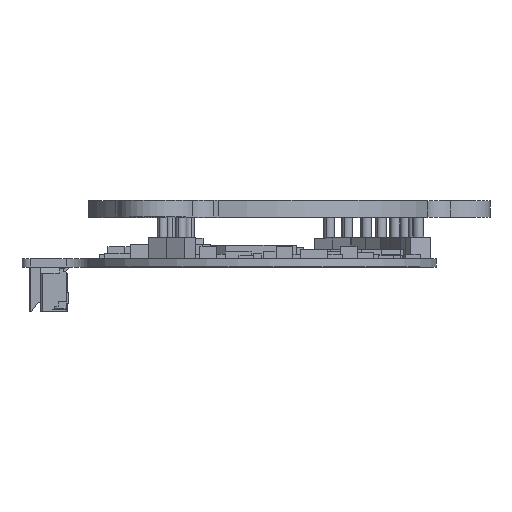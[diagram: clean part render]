
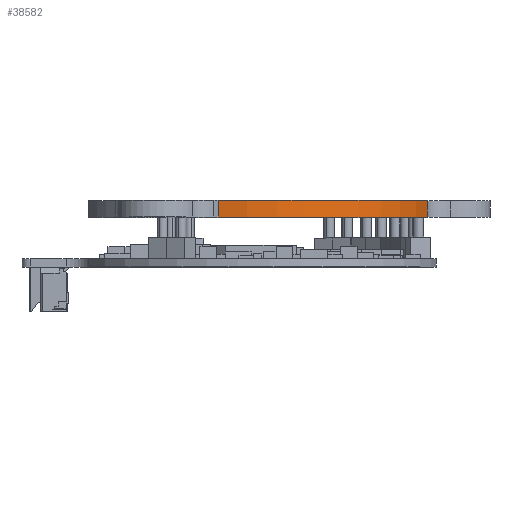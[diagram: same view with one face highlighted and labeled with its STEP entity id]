
A CAD part, top view. The second image highlights one B-rep face of the part: STEP entity #38582.
In plain terms, the highlighted cylindrical face has radius 22 mm (diameter 44 mm), a partial arc.
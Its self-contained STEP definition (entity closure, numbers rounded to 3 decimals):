
#642 = CARTESIAN_POINT ( 'NONE',  ( -4.329, 0., 21.57 ) ) ;
#877 = VERTEX_POINT ( 'NONE', #25512 ) ;
#1072 = DIRECTION ( 'NONE',  ( 0., 1., 0. ) ) ;
#1262 = CARTESIAN_POINT ( 'NONE',  ( 0., 0., 0. ) ) ;
#4927 = EDGE_CURVE ( 'NONE', #36225, #877, #42853, .T. ) ;
#7832 = LINE ( 'NONE', #12717, #10860 ) ;
#8063 = CARTESIAN_POINT ( 'NONE',  ( 20.845, 2., 7.035 ) ) ;
#8414 = VERTEX_POINT ( 'NONE', #19428 ) ;
#8484 = ORIENTED_EDGE ( 'NONE', *, *, #38383, .F. ) ;
#10393 = AXIS2_PLACEMENT_3D ( 'NONE', #21680, #35395, #38756 ) ;
#10860 = VECTOR ( 'NONE', #36062, 1000. ) ;
#12148 = CARTESIAN_POINT ( 'NONE',  ( 20.845, 2., 7.035 ) ) ;
#12717 = CARTESIAN_POINT ( 'NONE',  ( -4.329, 2., 21.57 ) ) ;
#14906 = AXIS2_PLACEMENT_3D ( 'NONE', #1262, #18493, #22288 ) ;
#16492 = AXIS2_PLACEMENT_3D ( 'NONE', #35577, #1072, #25439 ) ;
#17741 = ORIENTED_EDGE ( 'NONE', *, *, #42158, .T. ) ;
#17879 = CYLINDRICAL_SURFACE ( 'NONE', #10393, 22. ) ;
#18493 = DIRECTION ( 'NONE',  ( 0., 1., 0. ) ) ;
#19428 = CARTESIAN_POINT ( 'NONE',  ( -4.329, 2., 21.57 ) ) ;
#21680 = CARTESIAN_POINT ( 'NONE',  ( 0., 2., 0. ) ) ;
#21918 = FACE_OUTER_BOUND ( 'NONE', #27554, .T. ) ;
#22288 = DIRECTION ( 'NONE',  ( 0., 0., 1. ) ) ;
#24339 = ORIENTED_EDGE ( 'NONE', *, *, #36327, .T. ) ;
#25021 = ORIENTED_EDGE ( 'NONE', *, *, #4927, .F. ) ;
#25439 = DIRECTION ( 'NONE',  ( 0., 0., 1. ) ) ;
#25512 = CARTESIAN_POINT ( 'NONE',  ( 20.845, 0., 7.035 ) ) ;
#25772 = DIRECTION ( 'NONE',  ( 0., -1., 0. ) ) ;
#27554 = EDGE_LOOP ( 'NONE', ( #17741, #25021, #8484, #24339 ) ) ;
#30137 = CIRCLE ( 'NONE', #16492, 22. ) ;
#33136 = VECTOR ( 'NONE', #25772, 1000. ) ;
#35395 = DIRECTION ( 'NONE',  ( 0., -1., 0. ) ) ;
#35577 = CARTESIAN_POINT ( 'NONE',  ( 0., 2., 0. ) ) ;
#36062 = DIRECTION ( 'NONE',  ( 0., -1., 0. ) ) ;
#36225 = VERTEX_POINT ( 'NONE', #8063 ) ;
#36327 = EDGE_CURVE ( 'NONE', #8414, #38608, #7832, .T. ) ;
#38383 = EDGE_CURVE ( 'NONE', #8414, #36225, #30137, .T. ) ;
#38582 = ADVANCED_FACE ( 'NONE', ( #21918 ), #17879, .T. ) ;
#38608 = VERTEX_POINT ( 'NONE', #642 ) ;
#38756 = DIRECTION ( 'NONE',  ( 0., 0., -1. ) ) ;
#42158 = EDGE_CURVE ( 'NONE', #38608, #877, #42827, .T. ) ;
#42827 = CIRCLE ( 'NONE', #14906, 22. ) ;
#42853 = LINE ( 'NONE', #12148, #33136 ) ;
